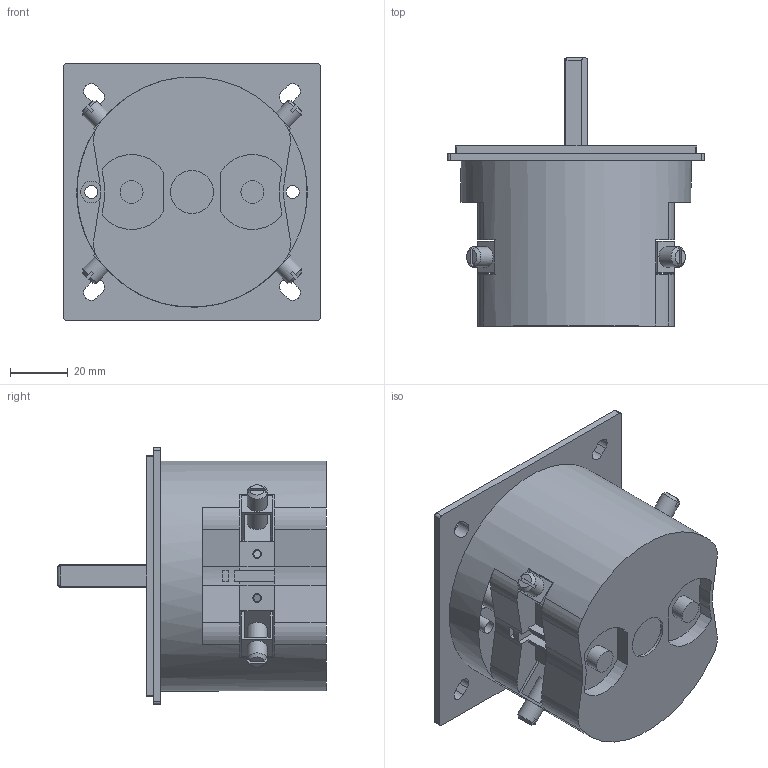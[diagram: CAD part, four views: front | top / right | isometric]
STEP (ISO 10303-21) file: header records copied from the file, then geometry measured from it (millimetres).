
FILE_DESCRIPTION(/* description */ (''),/* implementation_level */ '2;1');
FILE_NAME(/* name */ '4G80-U_1_korpus.stp',/* time_stamp */ '2021-07-22T07:09:12+02:00',/* author */ (''),/* organization */ (''),/* preprocessor_version */ 'ST-DEVELOPER v18.1',/* originating_system */ 'SIEMENS PLM Software NX 1965',/* authorisation */ '');
FILE_SCHEMA (('AUTOMOTIVE_DESIGN { 1 0 10303 214 3 1 1 1 }'));
Length unit declared in the file: millimetre
Products named in the file (1): 4G80-U_1_korpus_stp
Bounding box: 89.2 x 93.25 x 89.2 mm (x, y, z)
Volume: 290626.7 mm3; surface area: 45357.7 mm2
Topology: 1 solids, 1 shells, 256 faces, 674 edges, 444 vertices
Faces by surface type: plane 164, cylinder 77, cone 12, bspline 3
Full cylindrical faces by diameter (mm): 2.5 x4, 4.5 x2, 7 x8, 7.5 x2, 8 x4, 8.5 x2, 11.6 x2, 12 x3, 15 x1, 80 x1
Entity records: 7797 total; most frequent: CARTESIAN_POINT 1588, DIRECTION 1281, ORIENTED_EDGE 1228, EDGE_CURVE 614, AXIS2_PLACEMENT_3D 440, VERTEX_POINT 421, LINE 401, VECTOR 401
